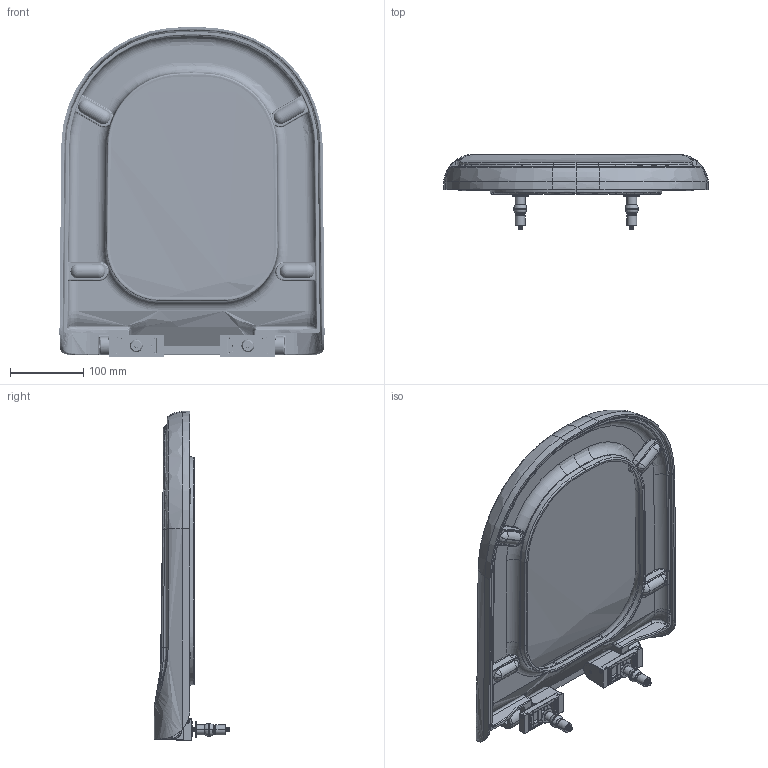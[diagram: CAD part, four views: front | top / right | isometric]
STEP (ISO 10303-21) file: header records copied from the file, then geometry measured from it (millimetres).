
FILE_DESCRIPTION (( 'STEP AP203' ), '1' );
FILE_NAME ('KC0303.STEP', '2022-04-11T08:32:27', ( '' ), ( '' ), 'SwSTEP 2.0', 'SolidWorks 2021', '' );
FILE_SCHEMA (( 'CONFIG_CONTROL_DESIGN' ));
Products named in the file (1): KC0303
Bounding box: 362.02 x 102.98 x 450.68 mm (x, y, z)
Surface area: 664044.9 mm2 (no closed solid volume)
Topology: 0 solids, 38 shells, 2554 faces, 6428 edges, 3932 vertices
Faces by surface type: cylinder 1178, plane 483, bspline 435, torus 296, cone 104, sphere 58
Entity records: 153215 total; most frequent: CARTESIAN_POINT 98953, ORIENTED_EDGE 12702, DIRECTION 10067, EDGE_CURVE 6370, VERTEX_POINT 3932, AXIS2_PLACEMENT_3D 3872, EDGE_LOOP 2642, FACE_OUTER_BOUND 2554
